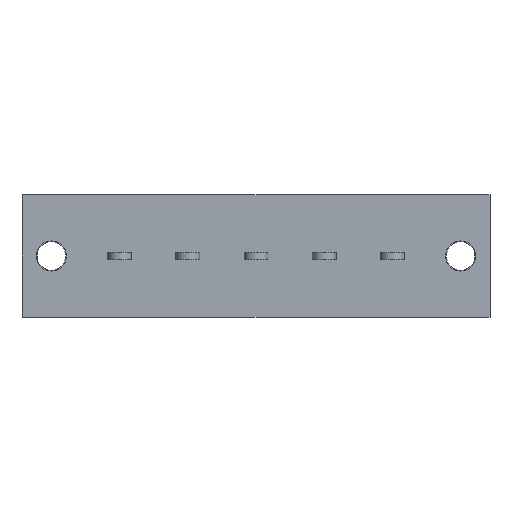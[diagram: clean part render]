
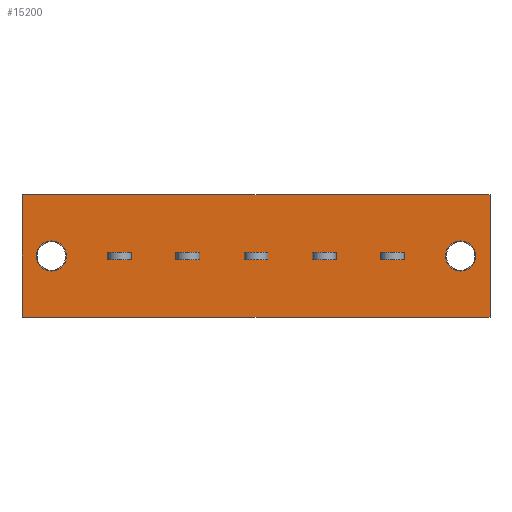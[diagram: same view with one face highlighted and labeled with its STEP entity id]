
A CAD part, front view. The second image highlights one B-rep face of the part: STEP entity #15200.
In plain terms, the highlighted planar face has unit normal (0, -1, 0).
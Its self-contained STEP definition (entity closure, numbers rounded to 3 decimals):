
#678=CIRCLE('',#15738,2.1);
#818=CIRCLE('',#16228,2.1);
#972=VERTEX_POINT('',#20058);
#973=VERTEX_POINT('',#20059);
#977=VERTEX_POINT('',#20069);
#988=VERTEX_POINT('',#20103);
#1082=VERTEX_POINT('',#20380);
#1413=VERTEX_POINT('',#21852);
#1414=VERTEX_POINT('',#21854);
#1458=VERTEX_POINT('',#22042);
#1459=VERTEX_POINT('',#22043);
#1463=VERTEX_POINT('',#22053);
#1490=VERTEX_POINT('',#22120);
#1590=VERTEX_POINT('',#22476);
#1591=VERTEX_POINT('',#22477);
#1595=VERTEX_POINT('',#22487);
#1622=VERTEX_POINT('',#22554);
#1765=VERTEX_POINT('',#23012);
#1775=VERTEX_POINT('',#23036);
#1776=VERTEX_POINT('',#23038);
#1777=VERTEX_POINT('',#23039);
#1778=VERTEX_POINT('',#23041);
#1779=VERTEX_POINT('',#23043);
#1780=VERTEX_POINT('',#23046);
#1781=VERTEX_POINT('',#23047);
#1782=VERTEX_POINT('',#23049);
#1783=VERTEX_POINT('',#23051);
#1784=VERTEX_POINT('',#23054);
#2523=VECTOR('',#16770,1.);
#2527=VECTOR('',#16777,1.);
#2537=VECTOR('',#16809,1.);
#2540=VECTOR('',#16821,1.);
#3031=VECTOR('',#17552,1.);
#3068=VECTOR('',#17700,1.);
#3072=VECTOR('',#17707,1.);
#3096=VECTOR('',#17758,1.);
#3099=VECTOR('',#17770,1.);
#3196=VECTOR('',#18044,1.);
#3200=VECTOR('',#18051,1.);
#3224=VECTOR('',#18102,1.);
#3227=VECTOR('',#18114,1.);
#3359=VECTOR('',#18465,1.);
#3372=VECTOR('',#18481,1.);
#3373=VECTOR('',#18482,1.);
#3374=VECTOR('',#18483,1.);
#3375=VECTOR('',#18484,1.);
#3376=VECTOR('',#18485,1.);
#3377=VECTOR('',#18486,1.);
#3378=VECTOR('',#18487,1.);
#3379=VECTOR('',#18488,1.);
#3380=VECTOR('',#18489,1.);
#3381=VECTOR('',#18490,1.);
#4183=LINE('',#20057,#2523);
#4187=LINE('',#20068,#2527);
#4197=LINE('',#20102,#2537);
#4200=LINE('',#20113,#2540);
#4691=LINE('',#21853,#3031);
#4728=LINE('',#22041,#3068);
#4732=LINE('',#22052,#3072);
#4756=LINE('',#22119,#3096);
#4759=LINE('',#22130,#3099);
#4856=LINE('',#22475,#3196);
#4860=LINE('',#22486,#3200);
#4884=LINE('',#22553,#3224);
#4887=LINE('',#22564,#3227);
#5019=LINE('',#23011,#3359);
#5032=LINE('',#23037,#3372);
#5033=LINE('',#23040,#3373);
#5034=LINE('',#23042,#3374);
#5035=LINE('',#23044,#3375);
#5036=LINE('',#23045,#3376);
#5037=LINE('',#23048,#3377);
#5038=LINE('',#23050,#3378);
#5039=LINE('',#23052,#3379);
#5040=LINE('',#23053,#3380);
#5041=LINE('',#23055,#3381);
#5845=EDGE_CURVE('',#972,#973,#4183,.T.);
#5850=EDGE_CURVE('',#977,#972,#4187,.T.);
#5867=EDGE_CURVE('',#973,#988,#4197,.T.);
#5872=EDGE_CURVE('',#988,#977,#4200,.T.);
#6004=EDGE_CURVE('',#1082,#1082,#678,.T.);
#6498=EDGE_CURVE('',#1413,#1414,#4691,.T.);
#6572=EDGE_CURVE('',#1458,#1459,#4728,.T.);
#6577=EDGE_CURVE('',#1463,#1458,#4732,.T.);
#6610=EDGE_CURVE('',#1459,#1490,#4756,.T.);
#6615=EDGE_CURVE('',#1490,#1463,#4759,.T.);
#6768=EDGE_CURVE('',#1590,#1591,#4856,.T.);
#6773=EDGE_CURVE('',#1595,#1590,#4860,.T.);
#6806=EDGE_CURVE('',#1591,#1622,#4884,.T.);
#6811=EDGE_CURVE('',#1622,#1595,#4887,.T.);
#7014=EDGE_CURVE('',#1765,#1413,#5019,.T.);
#7027=EDGE_CURVE('',#1775,#1775,#818,.T.);
#7028=EDGE_CURVE('',#1776,#1777,#5032,.T.);
#7029=EDGE_CURVE('',#1777,#1778,#5033,.T.);
#7030=EDGE_CURVE('',#1778,#1779,#5034,.T.);
#7031=EDGE_CURVE('',#1779,#1776,#5035,.T.);
#7032=EDGE_CURVE('',#1780,#1781,#5036,.T.);
#7033=EDGE_CURVE('',#1781,#1782,#5037,.T.);
#7034=EDGE_CURVE('',#1782,#1783,#5038,.T.);
#7035=EDGE_CURVE('',#1783,#1780,#5039,.T.);
#7036=EDGE_CURVE('',#1784,#1414,#5040,.T.);
#7037=EDGE_CURVE('',#1784,#1765,#5041,.T.);
#10435=ORIENTED_EDGE('',*,*,#5850,.T.);
#10436=ORIENTED_EDGE('',*,*,#5845,.T.);
#10437=ORIENTED_EDGE('',*,*,#5867,.T.);
#10438=ORIENTED_EDGE('',*,*,#5872,.T.);
#10439=ORIENTED_EDGE('',*,*,#6004,.T.);
#10440=ORIENTED_EDGE('',*,*,#7027,.T.);
#10441=ORIENTED_EDGE('',*,*,#6577,.T.);
#10442=ORIENTED_EDGE('',*,*,#6572,.T.);
#10443=ORIENTED_EDGE('',*,*,#6610,.T.);
#10444=ORIENTED_EDGE('',*,*,#6615,.T.);
#10445=ORIENTED_EDGE('',*,*,#7028,.T.);
#10446=ORIENTED_EDGE('',*,*,#7029,.T.);
#10447=ORIENTED_EDGE('',*,*,#7030,.T.);
#10448=ORIENTED_EDGE('',*,*,#7031,.T.);
#10449=ORIENTED_EDGE('',*,*,#6773,.T.);
#10450=ORIENTED_EDGE('',*,*,#6768,.T.);
#10451=ORIENTED_EDGE('',*,*,#6806,.T.);
#10452=ORIENTED_EDGE('',*,*,#6811,.T.);
#10453=ORIENTED_EDGE('',*,*,#7032,.T.);
#10454=ORIENTED_EDGE('',*,*,#7033,.T.);
#10455=ORIENTED_EDGE('',*,*,#7034,.T.);
#10456=ORIENTED_EDGE('',*,*,#7035,.T.);
#10457=ORIENTED_EDGE('',*,*,#7036,.T.);
#10458=ORIENTED_EDGE('',*,*,#6498,.F.);
#10459=ORIENTED_EDGE('',*,*,#7014,.F.);
#10460=ORIENTED_EDGE('',*,*,#7037,.F.);
#13253=EDGE_LOOP('',(#10435,#10436,#10437,#10438));
#13254=EDGE_LOOP('',(#10439));
#13255=EDGE_LOOP('',(#10440));
#13256=EDGE_LOOP('',(#10441,#10442,#10443,#10444));
#13257=EDGE_LOOP('',(#10445,#10446,#10447,#10448));
#13258=EDGE_LOOP('',(#10449,#10450,#10451,#10452));
#13259=EDGE_LOOP('',(#10453,#10454,#10455,#10456));
#13260=EDGE_LOOP('',(#10457,#10458,#10459,#10460));
#14255=FACE_BOUND('',#13253,.T.);
#14256=FACE_BOUND('',#13254,.T.);
#14257=FACE_BOUND('',#13255,.T.);
#14258=FACE_BOUND('',#13256,.T.);
#14259=FACE_BOUND('',#13257,.T.);
#14260=FACE_BOUND('',#13258,.T.);
#14261=FACE_BOUND('',#13259,.T.);
#14262=FACE_BOUND('',#13260,.T.);
#15200=ADVANCED_FACE('',(#14255,#14256,#14257,#14258,#14259,#14260,#14261,
#14262),#26091,.T.);
#15738=AXIS2_PLACEMENT_3D('',#20379,#17032,#17033);
#16227=AXIS2_PLACEMENT_3D('',#23034,#18478,$);
#16228=AXIS2_PLACEMENT_3D('',#23035,#18479,#18480);
#16770=DIRECTION('',(0.,0.,1.));
#16777=DIRECTION('',(-1.,0.,0.));
#16809=DIRECTION('',(1.,0.,0.));
#16821=DIRECTION('',(0.,0.,-1.));
#17032=DIRECTION('',(0.,1.,0.));
#17033=DIRECTION('',(-2.1,0.,0.));
#17552=DIRECTION('',(0.,0.,-1.));
#17700=DIRECTION('',(0.,0.,1.));
#17707=DIRECTION('',(-1.,0.,0.));
#17758=DIRECTION('',(1.,0.,0.));
#17770=DIRECTION('',(0.,0.,-1.));
#18044=DIRECTION('',(0.,0.,1.));
#18051=DIRECTION('',(-1.,0.,0.));
#18102=DIRECTION('',(1.,0.,0.));
#18114=DIRECTION('',(0.,0.,-1.));
#18465=DIRECTION('',(1.,0.,0.));
#18478=DIRECTION('',(0.,-1.,0.));
#18479=DIRECTION('',(0.,1.,0.));
#18480=DIRECTION('',(2.1,0.,0.));
#18481=DIRECTION('',(-1.,0.,0.));
#18482=DIRECTION('',(0.,0.,1.));
#18483=DIRECTION('',(1.,0.,0.));
#18484=DIRECTION('',(0.,0.,-1.));
#18485=DIRECTION('',(-1.,0.,0.));
#18486=DIRECTION('',(0.,0.,1.));
#18487=DIRECTION('',(1.,0.,0.));
#18488=DIRECTION('',(0.,0.,-1.));
#18489=DIRECTION('',(1.,0.,0.));
#18490=DIRECTION('',(0.,0.,1.));
#20057=CARTESIAN_POINT('',(3.8,0.,0.));
#20058=CARTESIAN_POINT('',(3.8,0.,-0.5));
#20059=CARTESIAN_POINT('',(3.8,0.,0.5));
#20068=CARTESIAN_POINT('',(7.475,0.,-0.5));
#20069=CARTESIAN_POINT('',(7.1,0.,-0.5));
#20102=CARTESIAN_POINT('',(7.475,0.,0.5));
#20103=CARTESIAN_POINT('',(7.1,0.,0.5));
#20113=CARTESIAN_POINT('',(7.1,0.,0.));
#20379=CARTESIAN_POINT('',(52.95,0.,0.));
#20380=CARTESIAN_POINT('',(55.05,0.,0.));
#21852=CARTESIAN_POINT('',(57.05,0.,8.5));
#21853=CARTESIAN_POINT('',(57.05,0.,8.5));
#21854=CARTESIAN_POINT('',(57.05,0.,-8.5));
#22041=CARTESIAN_POINT('',(41.8,0.,0.));
#22042=CARTESIAN_POINT('',(41.8,0.,-0.5));
#22043=CARTESIAN_POINT('',(41.8,0.,0.5));
#22052=CARTESIAN_POINT('',(26.475,0.,-0.5));
#22053=CARTESIAN_POINT('',(45.1,0.,-0.5));
#22119=CARTESIAN_POINT('',(26.475,0.,0.5));
#22120=CARTESIAN_POINT('',(45.1,0.,0.5));
#22130=CARTESIAN_POINT('',(45.1,0.,0.));
#22475=CARTESIAN_POINT('',(22.8,0.,0.));
#22476=CARTESIAN_POINT('',(22.8,0.,-0.5));
#22477=CARTESIAN_POINT('',(22.8,0.,0.5));
#22486=CARTESIAN_POINT('',(16.975,0.,-0.5));
#22487=CARTESIAN_POINT('',(26.1,0.,-0.5));
#22553=CARTESIAN_POINT('',(16.975,0.,0.5));
#22554=CARTESIAN_POINT('',(26.1,0.,0.5));
#22564=CARTESIAN_POINT('',(26.1,0.,0.));
#23011=CARTESIAN_POINT('',(-8.15,0.,8.5));
#23012=CARTESIAN_POINT('',(-8.15,0.,8.5));
#23034=CARTESIAN_POINT('',(9.5,0.,0.));
#23035=CARTESIAN_POINT('',(-4.05,0.,0.));
#23036=CARTESIAN_POINT('',(-6.15,0.,0.));
#23037=CARTESIAN_POINT('',(21.725,0.,-0.5));
#23038=CARTESIAN_POINT('',(35.6,0.,-0.5));
#23039=CARTESIAN_POINT('',(32.3,0.,-0.5));
#23040=CARTESIAN_POINT('',(32.3,0.,0.));
#23041=CARTESIAN_POINT('',(32.3,0.,0.5));
#23042=CARTESIAN_POINT('',(21.725,0.,0.5));
#23043=CARTESIAN_POINT('',(35.6,0.,0.5));
#23044=CARTESIAN_POINT('',(35.6,0.,0.));
#23045=CARTESIAN_POINT('',(12.225,0.,-0.5));
#23046=CARTESIAN_POINT('',(16.6,0.,-0.5));
#23047=CARTESIAN_POINT('',(13.3,0.,-0.5));
#23048=CARTESIAN_POINT('',(13.3,0.,0.));
#23049=CARTESIAN_POINT('',(13.3,0.,0.5));
#23050=CARTESIAN_POINT('',(12.225,0.,0.5));
#23051=CARTESIAN_POINT('',(16.6,0.,0.5));
#23052=CARTESIAN_POINT('',(16.6,0.,0.));
#23053=CARTESIAN_POINT('',(-8.15,0.,-8.5));
#23054=CARTESIAN_POINT('',(-8.15,0.,-8.5));
#23055=CARTESIAN_POINT('',(-8.15,0.,-8.5));
#26091=PLANE('',#16227);
